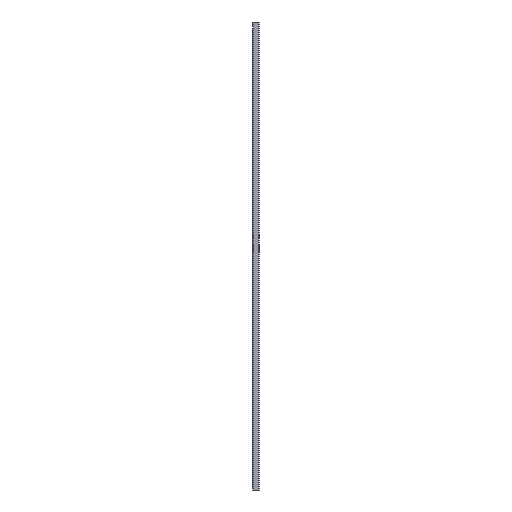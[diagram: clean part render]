
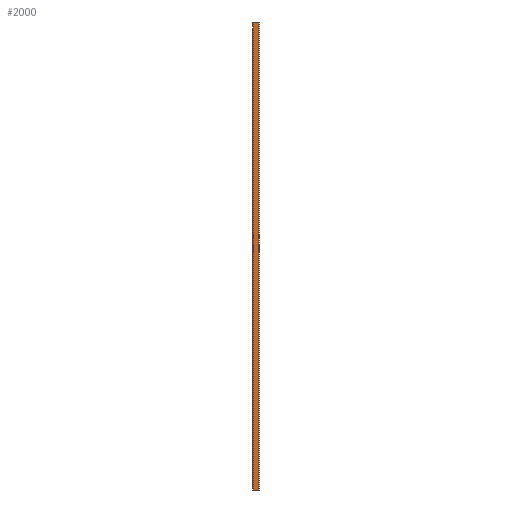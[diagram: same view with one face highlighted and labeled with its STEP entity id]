
A CAD part, left-side view. The second image highlights one B-rep face of the part: STEP entity #2000.
In plain terms, the highlighted planar face has unit normal (-1, 0, 0).
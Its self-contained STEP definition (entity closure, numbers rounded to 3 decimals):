
#45 = VERTEX_POINT ( 'NONE', #2233 ) ;
#55 = CARTESIAN_POINT ( 'NONE',  ( -8., 3.2, 879. ) ) ;
#112 = DIRECTION ( 'NONE',  ( 0., -1., 0. ) ) ;
#206 = DIRECTION ( 'NONE',  ( 0., 1., 0. ) ) ;
#241 = ORIENTED_EDGE ( 'NONE', *, *, #2167, .F. ) ;
#404 = EDGE_CURVE ( 'NONE', #1078, #1431, #770, .T. ) ;
#442 = DIRECTION ( 'NONE',  ( 0., 0., 1. ) ) ;
#476 = CARTESIAN_POINT ( 'NONE',  ( -8., 9.3, 879. ) ) ;
#484 = AXIS2_PLACEMENT_3D ( 'NONE', #1325, #1288, #442 ) ;
#539 = DIRECTION ( 'NONE',  ( 0., -1., 0. ) ) ;
#591 = CARTESIAN_POINT ( 'NONE',  ( -8., 12.5, 0. ) ) ;
#681 = EDGE_CURVE ( 'NONE', #980, #1431, #1462, .T. ) ;
#733 = EDGE_LOOP ( 'NONE', ( #1176, #1239, #1498, #241, #2429, #2425, #1578, #1850 ) ) ;
#734 = EDGE_CURVE ( 'NONE', #1934, #2353, #1870, .T. ) ;
#738 = VECTOR ( 'NONE', #2317, 1000. ) ;
#757 = CARTESIAN_POINT ( 'NONE',  ( -8., 0., 0. ) ) ;
#770 = LINE ( 'NONE', #2243, #1094 ) ;
#783 = LINE ( 'NONE', #1433, #1122 ) ;
#860 = EDGE_CURVE ( 'NONE', #2353, #980, #2617, .T. ) ;
#934 = CARTESIAN_POINT ( 'NONE',  ( -8., 0., 0. ) ) ;
#980 = VERTEX_POINT ( 'NONE', #1594 ) ;
#1043 = EDGE_CURVE ( 'NONE', #45, #2624, #2239, .T. ) ;
#1078 = VERTEX_POINT ( 'NONE', #2489 ) ;
#1094 = VECTOR ( 'NONE', #1629, 1000. ) ;
#1109 = CARTESIAN_POINT ( 'NONE',  ( -8., 12.5, 879. ) ) ;
#1122 = VECTOR ( 'NONE', #2287, 1000. ) ;
#1176 = ORIENTED_EDGE ( 'NONE', *, *, #2064, .F. ) ;
#1183 = CARTESIAN_POINT ( 'NONE',  ( -8., 0., 879. ) ) ;
#1197 = CARTESIAN_POINT ( 'NONE',  ( -8., 0., 0. ) ) ;
#1239 = ORIENTED_EDGE ( 'NONE', *, *, #1043, .T. ) ;
#1251 = CARTESIAN_POINT ( 'NONE',  ( -8., 0., 879. ) ) ;
#1288 = DIRECTION ( 'NONE',  ( -1., 0., 0. ) ) ;
#1325 = CARTESIAN_POINT ( 'NONE',  ( -8., 0., 879. ) ) ;
#1431 = VERTEX_POINT ( 'NONE', #591 ) ;
#1433 = CARTESIAN_POINT ( 'NONE',  ( -8., 0., 879. ) ) ;
#1462 = LINE ( 'NONE', #2567, #738 ) ;
#1498 = ORIENTED_EDGE ( 'NONE', *, *, #1593, .F. ) ;
#1578 = ORIENTED_EDGE ( 'NONE', *, *, #681, .T. ) ;
#1593 = EDGE_CURVE ( 'NONE', #1829, #2624, #783, .T. ) ;
#1594 = CARTESIAN_POINT ( 'NONE',  ( -8., 12.5, 879. ) ) ;
#1629 = DIRECTION ( 'NONE',  ( 0., 1., 0. ) ) ;
#1700 = VECTOR ( 'NONE', #112, 1000. ) ;
#1829 = VERTEX_POINT ( 'NONE', #1251 ) ;
#1850 = ORIENTED_EDGE ( 'NONE', *, *, #404, .F. ) ;
#1870 = LINE ( 'NONE', #2356, #2253 ) ;
#1934 = VERTEX_POINT ( 'NONE', #55 ) ;
#1973 = PLANE ( 'NONE',  #484 ) ;
#1993 = DIRECTION ( 'NONE',  ( 0., 1., 0. ) ) ;
#2000 = ADVANCED_FACE ( 'NONE', ( #2374 ), #1973, .T. ) ;
#2036 = LINE ( 'NONE', #1183, #1700 ) ;
#2064 = EDGE_CURVE ( 'NONE', #45, #1078, #2649, .T. ) ;
#2167 = EDGE_CURVE ( 'NONE', #1934, #1829, #2036, .T. ) ;
#2186 = VECTOR ( 'NONE', #2438, 1000. ) ;
#2233 = CARTESIAN_POINT ( 'NONE',  ( -8., 3.2, 0. ) ) ;
#2239 = LINE ( 'NONE', #934, #2760 ) ;
#2243 = CARTESIAN_POINT ( 'NONE',  ( -8., 0., 0. ) ) ;
#2253 = VECTOR ( 'NONE', #206, 1000. ) ;
#2287 = DIRECTION ( 'NONE',  ( 0., 0., -1. ) ) ;
#2297 = VECTOR ( 'NONE', #1993, 1000. ) ;
#2317 = DIRECTION ( 'NONE',  ( 0., 0., -1. ) ) ;
#2353 = VERTEX_POINT ( 'NONE', #476 ) ;
#2356 = CARTESIAN_POINT ( 'NONE',  ( -8., 0., 879. ) ) ;
#2374 = FACE_OUTER_BOUND ( 'NONE', #733, .T. ) ;
#2425 = ORIENTED_EDGE ( 'NONE', *, *, #860, .T. ) ;
#2429 = ORIENTED_EDGE ( 'NONE', *, *, #734, .T. ) ;
#2438 = DIRECTION ( 'NONE',  ( 0., 1., 0. ) ) ;
#2489 = CARTESIAN_POINT ( 'NONE',  ( -8., 9.3, 0. ) ) ;
#2567 = CARTESIAN_POINT ( 'NONE',  ( -8., 12.5, 879. ) ) ;
#2617 = LINE ( 'NONE', #1109, #2297 ) ;
#2624 = VERTEX_POINT ( 'NONE', #1197 ) ;
#2649 = LINE ( 'NONE', #757, #2186 ) ;
#2760 = VECTOR ( 'NONE', #539, 1000. ) ;
